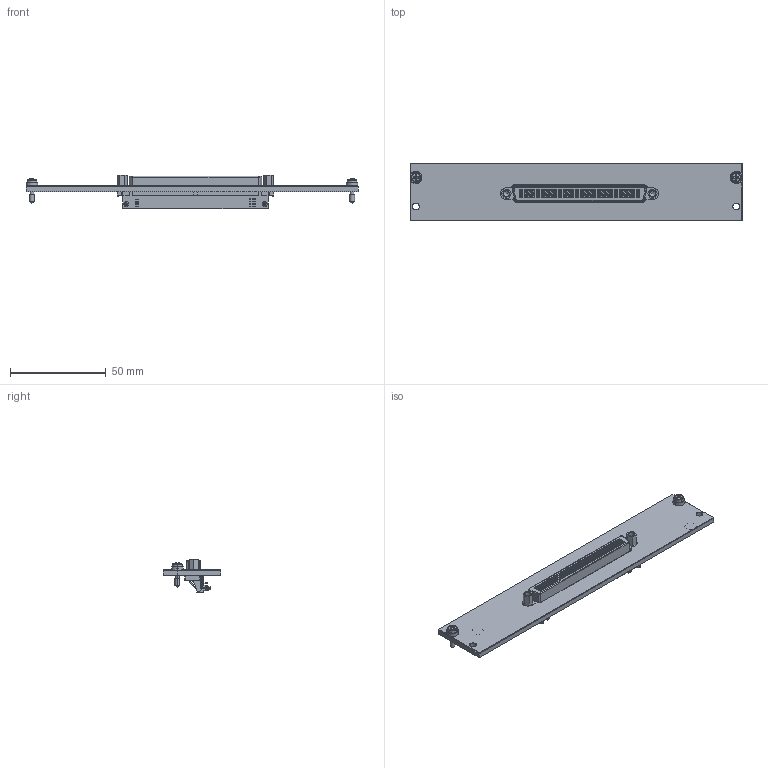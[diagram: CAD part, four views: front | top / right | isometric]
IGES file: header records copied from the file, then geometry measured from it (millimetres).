
Start section:  PTC IGES file: cu_scxi-1175.igs
Global section: file name: cu_scxi-1175.igs; native system: Pro/ENGINEER by Parametric Technology Corporation; preprocessor: 2006080; author: jjorden; organization: Unknown; date: 091125.163449; units: inch
Bounding box: 173.02 x 30.18 x 17.51 mm (x, y, z)
Surface area: 20360 mm2 (no closed solid volume)
Topology: 0 solids, 0 shells, 2171 faces, 11420 edges, 11412 vertices
Faces by surface type: bspline 2036, revolution 135
